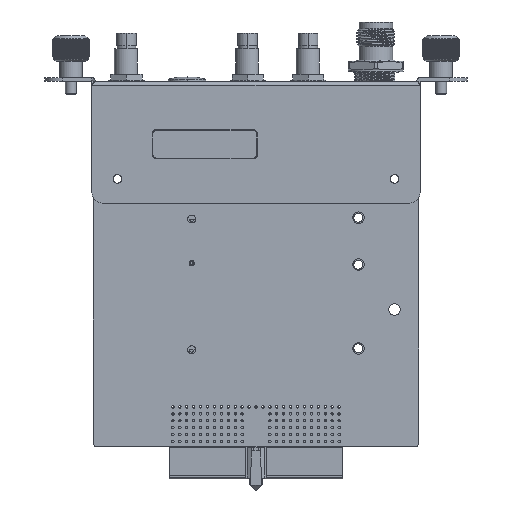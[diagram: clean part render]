
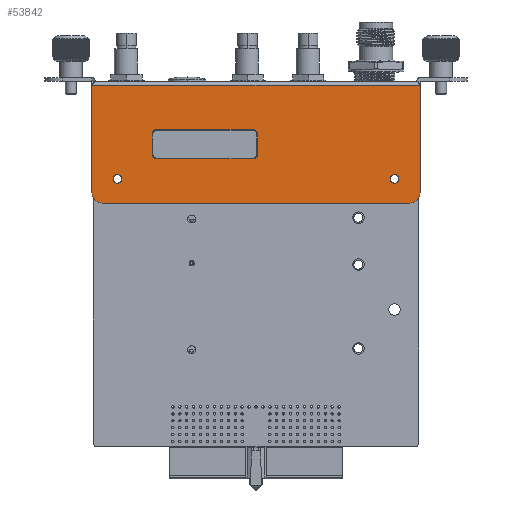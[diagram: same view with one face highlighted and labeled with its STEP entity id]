
A CAD part, front view. The second image highlights one B-rep face of the part: STEP entity #53842.
In plain terms, the highlighted planar face has unit normal (0, -1, 0).
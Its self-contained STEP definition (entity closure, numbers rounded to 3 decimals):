
#1722=CARTESIAN_POINT('',(-40.,-5.,-28.));
#1723=DIRECTION('',(0.,1.,0.));
#1724=DIRECTION('',(-1.,0.,0.));
#1725=AXIS2_PLACEMENT_3D('',#1722,#1723,#1724);
#1727=CARTESIAN_POINT('',(-40.,-5.,-28.));
#1728=DIRECTION('',(0.,1.,0.));
#1729=DIRECTION('',(1.,0.,0.));
#1730=AXIS2_PLACEMENT_3D('',#1727,#1728,#1729);
#1732=CARTESIAN_POINT('',(40.,-5.,-28.));
#1733=DIRECTION('',(0.,1.,0.));
#1734=DIRECTION('',(-1.,0.,0.));
#1735=AXIS2_PLACEMENT_3D('',#1732,#1733,#1734);
#1737=CARTESIAN_POINT('',(40.,-5.,-28.));
#1738=DIRECTION('',(0.,1.,0.));
#1739=DIRECTION('',(1.,0.,0.));
#1740=AXIS2_PLACEMENT_3D('',#1737,#1738,#1739);
#1742=DIRECTION('',(1.,0.,0.));
#1743=VECTOR('',#1742,88.8);
#1744=CARTESIAN_POINT('',(-44.4,-5.,-35.));
#1745=LINE('',#1744,#1743);
#1746=CARTESIAN_POINT('',(-44.4,-5.,-32.));
#1747=DIRECTION('',(0.,-1.,0.));
#1748=DIRECTION('',(-1.,0.,0.));
#1749=AXIS2_PLACEMENT_3D('',#1746,#1747,#1748);
#1751=DIRECTION('',(0.,0.,-1.));
#1752=VECTOR('',#1751,31.);
#1753=CARTESIAN_POINT('',(-47.4,-5.,-1.));
#1754=LINE('',#1753,#1752);
#1755=CARTESIAN_POINT('',(44.4,-5.,-32.));
#1756=DIRECTION('',(0.,-1.,0.));
#1757=DIRECTION('',(0.,0.,-1.));
#1758=AXIS2_PLACEMENT_3D('',#1755,#1756,#1757);
#1760=DIRECTION('',(1.,0.,0.));
#1761=VECTOR('',#1760,28.);
#1762=CARTESIAN_POINT('',(-28.8,-5.,-13.8));
#1763=LINE('',#1762,#1761);
#1764=CARTESIAN_POINT('',(-28.8,-5.,-15.));
#1765=DIRECTION('',(0.,1.,0.));
#1766=DIRECTION('',(-1.,0.,0.));
#1767=AXIS2_PLACEMENT_3D('',#1764,#1765,#1766);
#1769=DIRECTION('',(0.,0.,1.));
#1770=VECTOR('',#1769,6.);
#1771=CARTESIAN_POINT('',(-30.,-5.,-21.));
#1772=LINE('',#1771,#1770);
#1773=CARTESIAN_POINT('',(-28.8,-5.,-21.));
#1774=DIRECTION('',(0.,1.,0.));
#1775=DIRECTION('',(0.,0.,-1.));
#1776=AXIS2_PLACEMENT_3D('',#1773,#1774,#1775);
#1778=DIRECTION('',(-1.,0.,0.));
#1779=VECTOR('',#1778,28.);
#1780=CARTESIAN_POINT('',(-0.8,-5.,-22.2));
#1781=LINE('',#1780,#1779);
#1782=CARTESIAN_POINT('',(-0.8,-5.,-21.));
#1783=DIRECTION('',(0.,1.,0.));
#1784=DIRECTION('',(1.,0.,0.));
#1785=AXIS2_PLACEMENT_3D('',#1782,#1783,#1784);
#1787=DIRECTION('',(0.,0.,-1.));
#1788=VECTOR('',#1787,6.);
#1789=CARTESIAN_POINT('',(0.4,-5.,-15.));
#1790=LINE('',#1789,#1788);
#1791=CARTESIAN_POINT('',(-0.8,-5.,-15.));
#1792=DIRECTION('',(0.,1.,0.));
#1793=DIRECTION('',(0.,0.,1.));
#1794=AXIS2_PLACEMENT_3D('',#1791,#1792,#1793);
#1932=DIRECTION('',(0.,0.,-1.));
#1933=VECTOR('',#1932,31.);
#1934=CARTESIAN_POINT('',(47.4,-5.,-1.));
#1935=LINE('',#1934,#1933);
#8002=CARTESIAN_POINT('',(47.4,-5.,-1.));
#8010=DIRECTION('',(1.,0.,0.));
#8011=VECTOR('',#8010,94.8);
#8012=CARTESIAN_POINT('',(-47.4,-5.,-1.));
#8013=LINE('',#8012,#8011);
#8020=CARTESIAN_POINT('',(-47.4,-5.,-1.));
#41622=VERTEX_POINT('',#8020);
#41623=VERTEX_POINT('',#8002);
#41673=CARTESIAN_POINT('',(-47.4,-5.,-32.));
#41674=VERTEX_POINT('',#41673);
#41675=CARTESIAN_POINT('',(47.4,-5.,-32.));
#41676=VERTEX_POINT('',#41675);
#41693=CARTESIAN_POINT('',(-44.4,-5.,-35.));
#41694=VERTEX_POINT('',#41693);
#41695=CARTESIAN_POINT('',(44.4,-5.,-35.));
#41696=VERTEX_POINT('',#41695);
#41747=CARTESIAN_POINT('',(-28.8,-5.,-13.8));
#41748=CARTESIAN_POINT('',(-0.8,-5.,-13.8));
#41749=VERTEX_POINT('',#41747);
#41750=VERTEX_POINT('',#41748);
#41760=CARTESIAN_POINT('',(0.4,-5.,-15.));
#41761=VERTEX_POINT('',#41760);
#41762=CARTESIAN_POINT('',(-30.,-5.,-15.));
#41763=VERTEX_POINT('',#41762);
#41784=CARTESIAN_POINT('',(0.4,-5.,-21.));
#41785=VERTEX_POINT('',#41784);
#41786=CARTESIAN_POINT('',(-30.,-5.,-21.));
#41787=VERTEX_POINT('',#41786);
#41806=CARTESIAN_POINT('',(-0.8,-5.,-22.2));
#41807=VERTEX_POINT('',#41806);
#41810=CARTESIAN_POINT('',(-28.8,-5.,-22.2));
#41811=VERTEX_POINT('',#41810);
#41846=CARTESIAN_POINT('',(38.75,-5.,-28.));
#41847=CARTESIAN_POINT('',(41.25,-5.,-28.));
#41848=VERTEX_POINT('',#41846);
#41849=VERTEX_POINT('',#41847);
#41858=CARTESIAN_POINT('',(-41.25,-5.,-28.));
#41859=CARTESIAN_POINT('',(-38.75,-5.,-28.));
#41860=VERTEX_POINT('',#41858);
#41861=VERTEX_POINT('',#41859);
#53795=CARTESIAN_POINT('',(-46.4,-5.,0.));
#53796=DIRECTION('',(0.,-1.,0.));
#53797=DIRECTION('',(-1.,0.,0.));
#53798=AXIS2_PLACEMENT_3D('',#53795,#53796,#53797);
#53799=PLANE('',#53798);
#53801=ORIENTED_EDGE('',*,*,#53800,.F.);
#53803=ORIENTED_EDGE('',*,*,#53802,.F.);
#53805=ORIENTED_EDGE('',*,*,#53804,.F.);
#53807=ORIENTED_EDGE('',*,*,#53806,.T.);
#53809=ORIENTED_EDGE('',*,*,#53808,.T.);
#53811=ORIENTED_EDGE('',*,*,#53810,.F.);
#53812=EDGE_LOOP('',(#53801,#53803,#53805,#53807,#53809,#53811));
#53813=FACE_OUTER_BOUND('',#53812,.F.);
#53815=ORIENTED_EDGE('',*,*,#53814,.F.);
#53817=ORIENTED_EDGE('',*,*,#53816,.F.);
#53818=EDGE_LOOP('',(#53815,#53817));
#53819=FACE_BOUND('',#53818,.F.);
#53820=ORIENTED_EDGE('',*,*,#53788,.F.);
#53821=ORIENTED_EDGE('',*,*,#53774,.F.);
#53822=EDGE_LOOP('',(#53820,#53821));
#53823=FACE_BOUND('',#53822,.F.);
#53825=ORIENTED_EDGE('',*,*,#53824,.F.);
#53827=ORIENTED_EDGE('',*,*,#53826,.F.);
#53829=ORIENTED_EDGE('',*,*,#53828,.F.);
#53831=ORIENTED_EDGE('',*,*,#53830,.F.);
#53833=ORIENTED_EDGE('',*,*,#53832,.F.);
#53835=ORIENTED_EDGE('',*,*,#53834,.F.);
#53837=ORIENTED_EDGE('',*,*,#53836,.F.);
#53839=ORIENTED_EDGE('',*,*,#53838,.F.);
#53840=EDGE_LOOP('',(#53825,#53827,#53829,#53831,#53833,#53835,#53837,#53839));
#53841=FACE_BOUND('',#53840,.F.);
#1726=CIRCLE('',#1725,1.25);
#1731=CIRCLE('',#1730,1.25);
#1736=CIRCLE('',#1735,1.25);
#1741=CIRCLE('',#1740,1.25);
#1750=CIRCLE('',#1749,3.);
#1759=CIRCLE('',#1758,3.);
#1768=CIRCLE('',#1767,1.2);
#1777=CIRCLE('',#1776,1.2);
#1786=CIRCLE('',#1785,1.2);
#1795=CIRCLE('',#1794,1.2);
#53774=EDGE_CURVE('',#41861,#41860,#1731,.T.);
#53788=EDGE_CURVE('',#41860,#41861,#1726,.T.);
#53800=EDGE_CURVE('',#41694,#41696,#1745,.T.);
#53802=EDGE_CURVE('',#41674,#41694,#1750,.T.);
#53804=EDGE_CURVE('',#41622,#41674,#1754,.T.);
#53806=EDGE_CURVE('',#41622,#41623,#8013,.T.);
#53808=EDGE_CURVE('',#41623,#41676,#1935,.T.);
#53810=EDGE_CURVE('',#41696,#41676,#1759,.T.);
#53814=EDGE_CURVE('',#41848,#41849,#1736,.T.);
#53816=EDGE_CURVE('',#41849,#41848,#1741,.T.);
#53824=EDGE_CURVE('',#41749,#41750,#1763,.T.);
#53826=EDGE_CURVE('',#41763,#41749,#1768,.T.);
#53828=EDGE_CURVE('',#41787,#41763,#1772,.T.);
#53830=EDGE_CURVE('',#41811,#41787,#1777,.T.);
#53832=EDGE_CURVE('',#41807,#41811,#1781,.T.);
#53834=EDGE_CURVE('',#41785,#41807,#1786,.T.);
#53836=EDGE_CURVE('',#41761,#41785,#1790,.T.);
#53838=EDGE_CURVE('',#41750,#41761,#1795,.T.);
#53842=ADVANCED_FACE('',(#53813,#53819,#53823,#53841),#53799,.T.);
